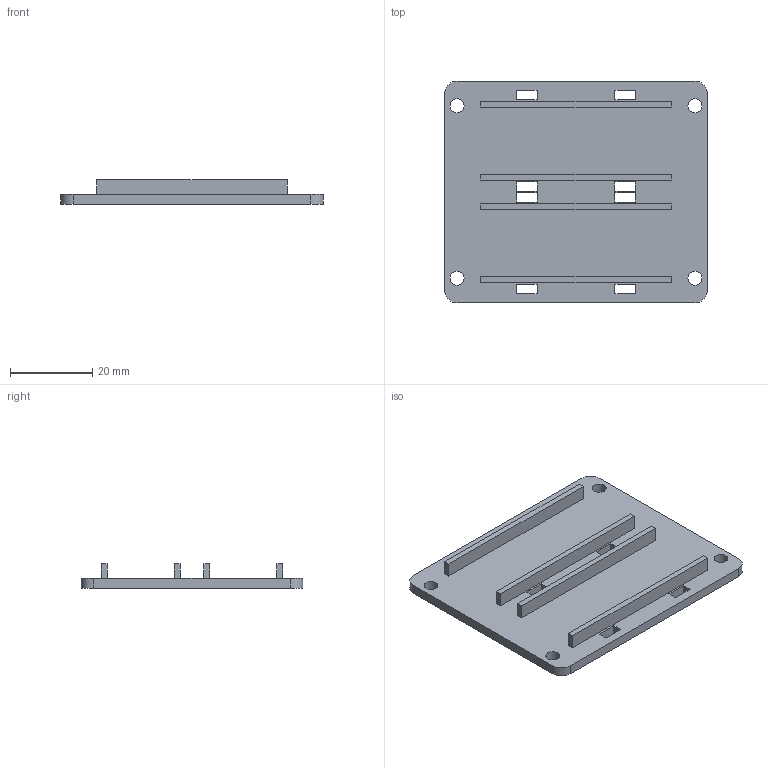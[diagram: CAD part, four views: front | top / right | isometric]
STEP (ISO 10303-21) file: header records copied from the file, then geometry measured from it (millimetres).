
FILE_DESCRIPTION(('Open CASCADE Model'),'2;1');
FILE_NAME('Open CASCADE Shape Model','2026-07-24T10:12:54',('Author'),( 'Open CASCADE'),'Open CASCADE STEP processor 7.9','Open CASCADE 7.9' ,'Unknown');
FILE_SCHEMA(('AUTOMOTIVE_DESIGN { 1 0 10303 214 1 1 1 1 }'));
Length unit declared in the file: millimetre
Products named in the file (1): Open CASCADE STEP translator 7.9 3
Bounding box: 64 x 54 x 6 mm (x, y, z)
Volume: 8895.4 mm3; surface area: 9045 mm2
Topology: 1 solids, 20 shells, 413 faces, 1107 edges, 738 vertices
Faces by surface type: plane 256, extrusion 149, cylinder 8
Full cylindrical faces by diameter (mm): 3.4 x4
Entity records: 27294 total; most frequent: CARTESIAN_POINT 6163, DIRECTION 3280, VECTOR 2714, LINE 2565, ORIENTED_EDGE 2214, PCURVE 2214, DEFINITIONAL_REPRESENTATION 2214, EDGE_CURVE 1107
